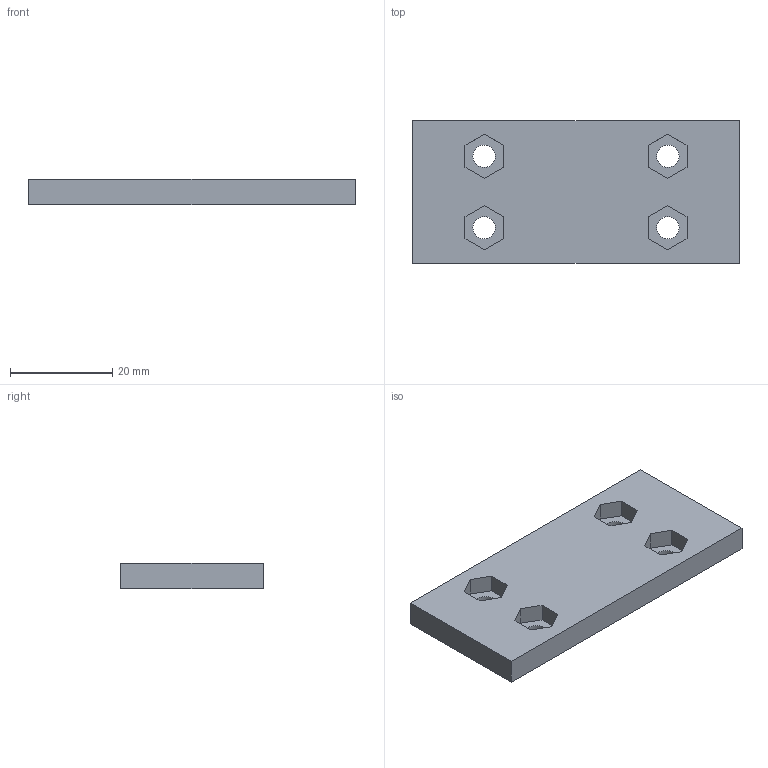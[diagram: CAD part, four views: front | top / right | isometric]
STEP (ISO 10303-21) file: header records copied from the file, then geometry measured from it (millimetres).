
FILE_DESCRIPTION(('Open CASCADE Model'),'2;1');
FILE_NAME('Open CASCADE Shape Model','2026-10-02T16:08:57',('Author'),( 'Open CASCADE'),'Open CASCADE STEP processor 7.8','Open CASCADE 7.8' ,'Unknown');
FILE_SCHEMA(('AUTOMOTIVE_DESIGN { 1 0 10303 214 1 1 1 1 }'));
Length unit declared in the file: millimetre
Products named in the file (1): Open CASCADE STEP translator 7.8 5
Bounding box: 64 x 28 x 5 mm (x, y, z)
Volume: 8186.8 mm3; surface area: 4829 mm2
Topology: 1 solids, 1 shells, 38 faces, 96 edges, 64 vertices
Faces by surface type: plane 34, cylinder 4
Full cylindrical faces by diameter (mm): 4.4 x4
Entity records: 2354 total; most frequent: CARTESIAN_POINT 439, DIRECTION 326, LINE 224, VECTOR 224, ORIENTED_EDGE 192, PCURVE 192, DEFINITIONAL_REPRESENTATION 192, EDGE_CURVE 96
